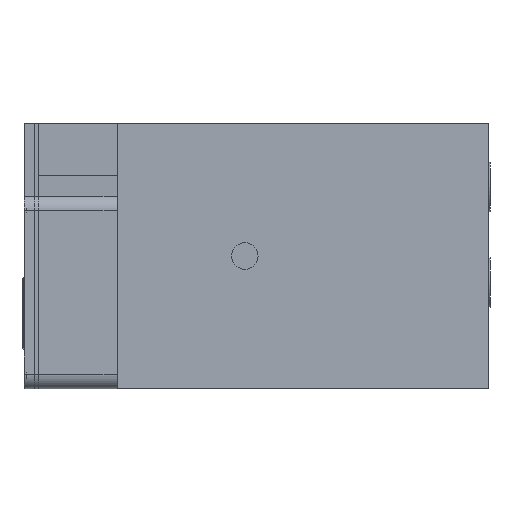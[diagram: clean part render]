
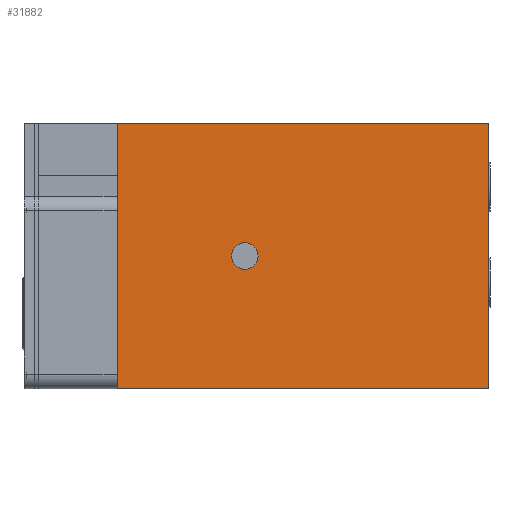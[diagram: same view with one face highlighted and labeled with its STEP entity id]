
A CAD part, front view. The second image highlights one B-rep face of the part: STEP entity #31882.
In plain terms, the highlighted planar face has unit normal (0, -1, 0).
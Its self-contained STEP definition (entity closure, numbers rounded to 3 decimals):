
#369=FACE_BOUND('',#4277,.T.);
#829=PLANE('',#33966);
#2569=FACE_OUTER_BOUND('',#4276,.T.);
#4276=EDGE_LOOP('',(#23846,#23847,#23848,#23849));
#4277=EDGE_LOOP('',(#23850,#23851));
#5939=CIRCLE('',#33956,2.489);
#5940=CIRCLE('',#33957,2.489);
#7851=LINE('',#54150,#11014);
#7872=LINE('',#54222,#11035);
#7873=LINE('',#54224,#11036);
#7874=LINE('',#54225,#11037);
#11014=VECTOR('',#38784,10.);
#11035=VECTOR('',#38863,10.);
#11036=VECTOR('',#38866,10.);
#11037=VECTOR('',#38867,10.);
#14175=VERTEX_POINT('',#54146);
#14177=VERTEX_POINT('',#54149);
#14193=VERTEX_POINT('',#54190);
#14194=VERTEX_POINT('',#54192);
#14198=VERTEX_POINT('',#54218);
#14199=VERTEX_POINT('',#54220);
#17751=EDGE_CURVE('',#14175,#14177,#7851,.T.);
#17772=EDGE_CURVE('',#14194,#14193,#5939,.T.);
#17773=EDGE_CURVE('',#14193,#14194,#5940,.T.);
#17788=EDGE_CURVE('',#14198,#14199,#7872,.T.);
#17789=EDGE_CURVE('',#14198,#14175,#7873,.T.);
#17790=EDGE_CURVE('',#14177,#14199,#7874,.T.);
#23846=ORIENTED_EDGE('',*,*,#17789,.F.);
#23847=ORIENTED_EDGE('',*,*,#17788,.T.);
#23848=ORIENTED_EDGE('',*,*,#17790,.F.);
#23849=ORIENTED_EDGE('',*,*,#17751,.F.);
#23850=ORIENTED_EDGE('',*,*,#17772,.T.);
#23851=ORIENTED_EDGE('',*,*,#17773,.T.);
#31882=ADVANCED_FACE('',(#2569,#369),#829,.T.);
#33956=AXIS2_PLACEMENT_3D('',#54193,#38829,#38830);
#33957=AXIS2_PLACEMENT_3D('',#54194,#38831,#38832);
#33966=AXIS2_PLACEMENT_3D('',#54223,#38864,#38865);
#38784=DIRECTION('',(0.,0.,-1.));
#38829=DIRECTION('center_axis',(0.,1.,0.));
#38830=DIRECTION('ref_axis',(-1.,0.,0.));
#38831=DIRECTION('center_axis',(0.,1.,0.));
#38832=DIRECTION('ref_axis',(-1.,0.,0.));
#38863=DIRECTION('',(0.,0.,-1.));
#38864=DIRECTION('center_axis',(0.,-1.,0.));
#38865=DIRECTION('ref_axis',(-1.,0.,0.));
#38866=DIRECTION('',(1.,0.,0.));
#38867=DIRECTION('',(-1.,0.,0.));
#54146=CARTESIAN_POINT('',(6.,-70.,50.));
#54149=CARTESIAN_POINT('',(6.,-70.,0.));
#54150=CARTESIAN_POINT('',(6.,-70.,50.));
#54190=CARTESIAN_POINT('',(-37.511,-70.,25.));
#54192=CARTESIAN_POINT('',(-42.489,-70.,25.));
#54193=CARTESIAN_POINT('Origin',(-40.,-70.,25.));
#54194=CARTESIAN_POINT('Origin',(-40.,-70.,25.));
#54218=CARTESIAN_POINT('',(-64.,-70.,50.));
#54220=CARTESIAN_POINT('',(-64.,-70.,0.));
#54222=CARTESIAN_POINT('',(-64.,-70.,50.));
#54223=CARTESIAN_POINT('Origin',(6.,-70.,50.));
#54224=CARTESIAN_POINT('',(-64.,-70.,50.));
#54225=CARTESIAN_POINT('',(-64.,-70.,0.));
